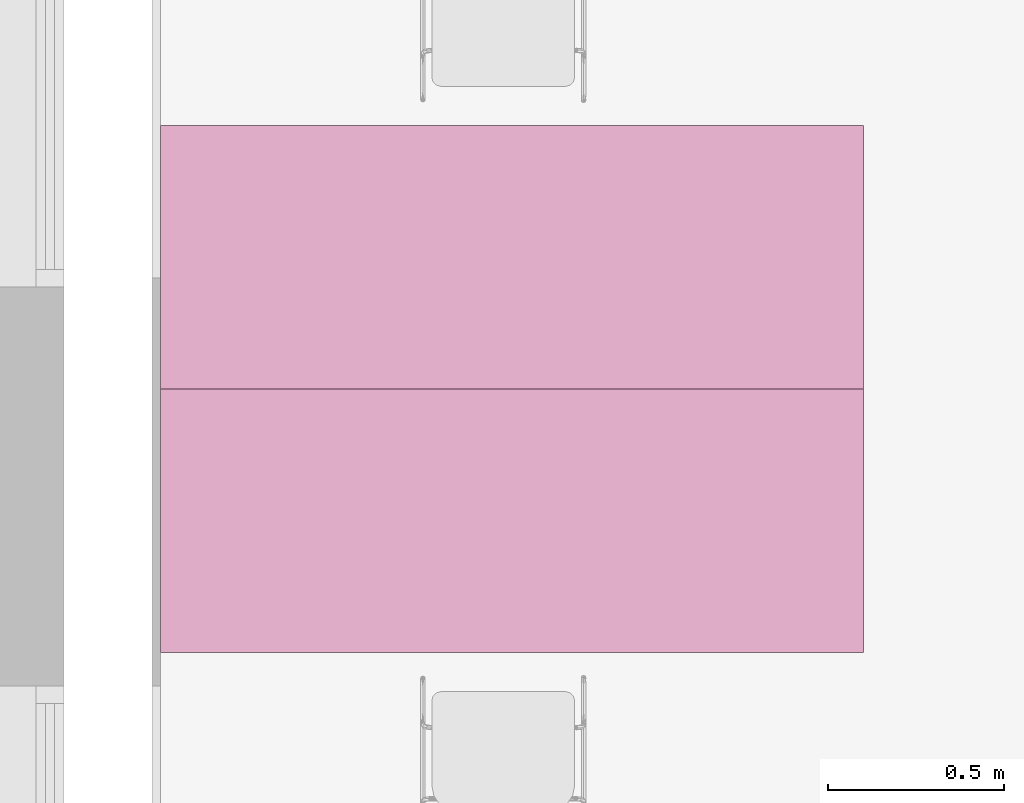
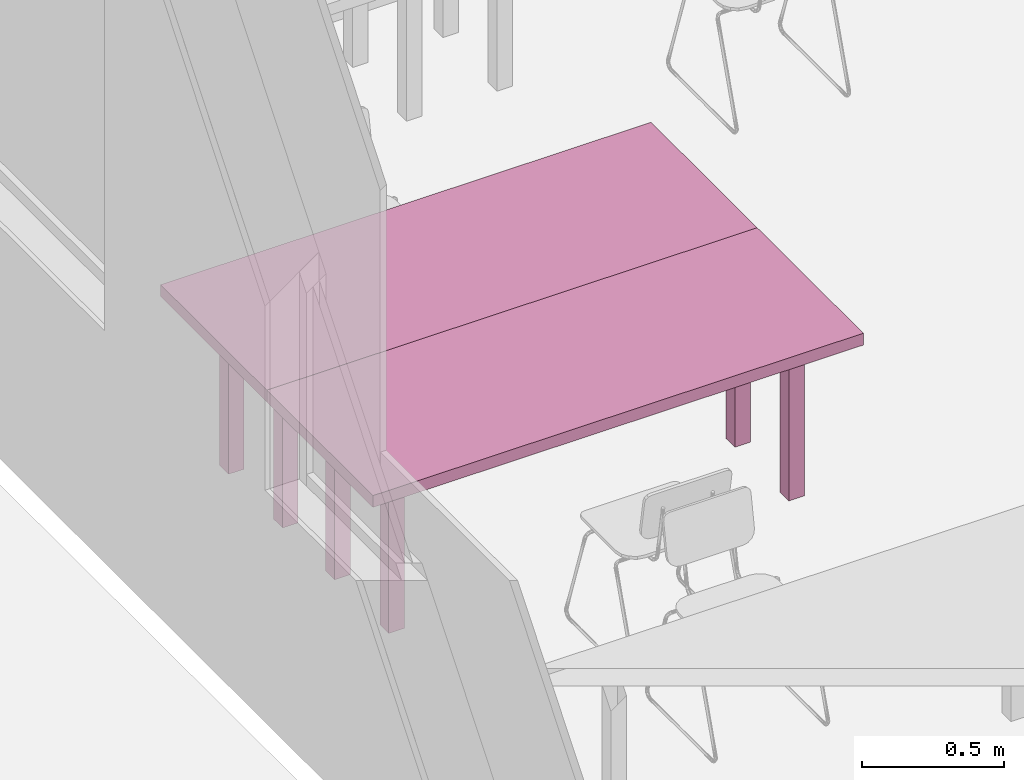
# One storey, part 24 of 27: 2 furnishings.
"""IFC2X3 building model written with IfcOpenShell, lengths in centimetres."""

from ifc_helpers import new_model, entity, si_unit, converted_unit, derived_unit, direction, frame, frame_2d, origin, origin_2d_with_axis, place, context, subcontext, project, spatial, rectangle, extrude, source, transform, mapped, material, material_list, type_object, type_shapes, element, save


model = new_model("IFC2X3")

# Units and contexts
model_context = context("Model", 3, precision=0.001, world=origin(), true_north=direction((6.12303176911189e-17, 1.0)))
body_context = subcontext(model_context, "Body", "Model", "MODEL_VIEW")
ifc_project = project(units=[si_unit("LENGTHUNIT", "METRE", prefix="CENTI"), si_unit("AREAUNIT", "SQUARE_METRE"), si_unit("VOLUMEUNIT", "CUBIC_METRE"), converted_unit("PLANEANGLEUNIT", "DEGREE", entity("IfcRatioMeasure", 0.0174532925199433), si_unit("PLANEANGLEUNIT", "RADIAN"), dimensions=[0, 0, 0, 0, 0, 0, 0]), si_unit("MASSUNIT", "GRAM", prefix="KILO"), derived_unit("MASSDENSITYUNIT", [(si_unit("MASSUNIT", "GRAM", prefix="KILO"), 1), (si_unit("LENGTHUNIT", "METRE"), -3)]), derived_unit("MOMENTOFINERTIAUNIT", [(si_unit("LENGTHUNIT", "METRE"), 4)]), si_unit("TIMEUNIT", "SECOND"), si_unit("FREQUENCYUNIT", "HERTZ"), si_unit("THERMODYNAMICTEMPERATUREUNIT", "DEGREE_CELSIUS"), derived_unit("THERMALTRANSMITTANCEUNIT", [(si_unit("MASSUNIT", "GRAM", prefix="KILO"), 1), (si_unit("THERMODYNAMICTEMPERATUREUNIT", "KELVIN"), -1), (si_unit("TIMEUNIT", "SECOND"), -3)]), derived_unit("VOLUMETRICFLOWRATEUNIT", [(si_unit("LENGTHUNIT", "METRE"), 3), (si_unit("TIMEUNIT", "SECOND"), -1)]), si_unit("ELECTRICCURRENTUNIT", "AMPERE"), si_unit("ELECTRICVOLTAGEUNIT", "VOLT"), si_unit("POWERUNIT", "WATT"), si_unit("FORCEUNIT", "NEWTON", prefix="KILO"), si_unit("ILLUMINANCEUNIT", "LUX"), si_unit("LUMINOUSFLUXUNIT", "LUMEN"), si_unit("LUMINOUSINTENSITYUNIT", "CANDELA"), derived_unit("USERDEFINED", [(si_unit("MASSUNIT", "GRAM", prefix="KILO"), -1), (si_unit("LENGTHUNIT", "METRE"), -2), (si_unit("TIMEUNIT", "SECOND"), 3), (si_unit("LUMINOUSFLUXUNIT", "LUMEN"), 1)]), derived_unit("LINEARVELOCITYUNIT", [(si_unit("LENGTHUNIT", "METRE"), 1), (si_unit("TIMEUNIT", "SECOND"), -1)]), si_unit("PRESSUREUNIT", "PASCAL"), derived_unit("USERDEFINED", [(si_unit("LENGTHUNIT", "METRE"), -2), (si_unit("MASSUNIT", "GRAM", prefix="KILO"), 1), (si_unit("TIMEUNIT", "SECOND"), -2)]), derived_unit("LINEARFORCEUNIT", [(si_unit("MASSUNIT", "GRAM", prefix="KILO"), 1), (si_unit("LENGTHUNIT", "METRE"), 1), (si_unit("TIMEUNIT", "SECOND"), -2), (si_unit("LENGTHUNIT", "METRE"), -1)]), derived_unit("PLANARFORCEUNIT", [(si_unit("MASSUNIT", "GRAM", prefix="KILO"), 1), (si_unit("LENGTHUNIT", "METRE"), 1), (si_unit("TIMEUNIT", "SECOND"), -2), (si_unit("LENGTHUNIT", "METRE"), -2)])], contexts=[model_context])

# Site, building, storey
site_placement = place(None, origin())
site = spatial("IfcSite", under=ifc_project, at=site_placement, Name="Default", CompositionType="ELEMENT")
building_placement = place(site_placement, origin())
building = spatial("IfcBuilding", under=site, at=building_placement, CompositionType="ELEMENT")
storey_placement = place(building_placement, origin())
storey = spatial("IfcBuildingStorey", under=building, at=storey_placement, Name="Poziom 0 A +/-0,00", CompositionType="ELEMENT", Elevation=3.38570427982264e-11)

# Furnishings
ifc_material = material(Name="MDF biały")
ifc_material_list = material_list([ifc_material, ifc_material, ifc_material, ifc_material, ifc_material])
furniture_type = type_object("IfcFurnitureType", Name="Stół - prostokątny:2000 x 750 mm", material=ifc_material_list)
shared_shape = source(origin(), body_context, "Body", "SweptSolid", [
    extrude(rectangle(XDim=200.0, YDim=75.0, at=origin_2d_with_axis()), frame((0.0, 0.0, 68.92), z_axis=(0.0, 0.0, 1.0), x_axis=(-1.0, 0.0, 0.0)), (0.0, 0.0, 1.0), 5.08),
    extrude(rectangle(XDim=6.35000000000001, YDim=6.35000000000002, at=origin_2d_with_axis()), frame((81.585, 19.0850000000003, 0.0), z_axis=(0.0, 0.0, 1.0), x_axis=(0.0, -1.0, 0.0)), (0.0, 0.0, 1.0), 68.92),
    extrude(rectangle(XDim=6.34999999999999, YDim=6.35000000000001, at=frame_2d((1.35447209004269e-14, 0.0), x_axis=(1.0, 0.0))), frame((-81.5849999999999, 19.0850000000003, 0.0), z_axis=(0.0, 0.0, 1.0), x_axis=(-1.0, 0.0, 0.0)), (0.0, 0.0, 1.0), 68.92),
    extrude(rectangle(XDim=6.35, YDim=6.34999999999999, at=origin_2d_with_axis()), frame((-81.585, -19.0850000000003, 0.0), z_axis=(0.0, 0.0, 1.0), x_axis=(0.0, 1.0, 0.0)), (0.0, 0.0, 1.0), 68.92),
    extrude(rectangle(XDim=6.35000000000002, YDim=6.35, at=origin_2d_with_axis()), frame((81.585, -19.0850000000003, 0.0)), (0.0, 0.0, 1.0), 68.92),
])
type_shapes(furniture_type, [shared_shape])
for number, where in (
    (1, (-2806.7650963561, 1118.10596941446, 0.6)),
    (2, (-2806.7650963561, 1043.10596941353, 0.6)),
):
    element("IfcFurnishingElement", number, at=place(storey_placement, frame(where)), inside=storey, type_object=furniture_type, material=ifc_material, Name="Stół - prostokątny:2000 x 750 mm", ObjectType="Stół - prostokątny:2000 x 750 mm", context=body_context, shape_type="MappedRepresentation", body=[
        mapped(shared_shape, transform((0.0, 0.0, 0.0), scale=1.0)),
    ])

save(model, "model.ifc")
